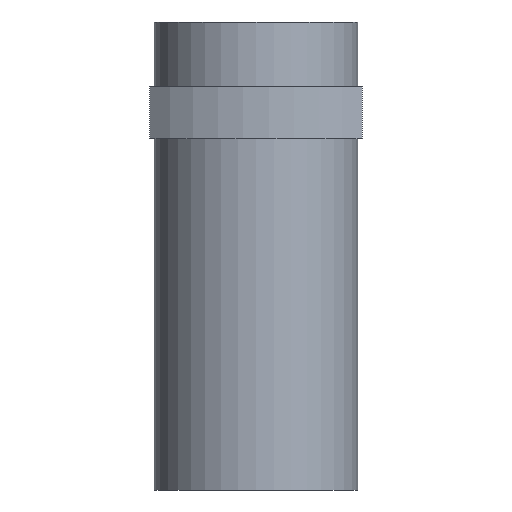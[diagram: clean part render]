
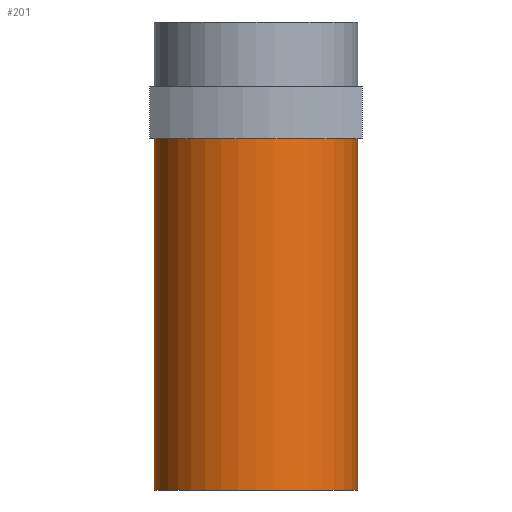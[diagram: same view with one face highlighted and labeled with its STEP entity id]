
A CAD part, front view. The second image highlights one B-rep face of the part: STEP entity #201.
In plain terms, the highlighted cylindrical face has radius 23.5 mm (diameter 47 mm), a full revolution.
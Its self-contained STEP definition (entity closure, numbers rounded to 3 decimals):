
#21 = EDGE_CURVE('',#22,#24,#26,.T.);
#22 = VERTEX_POINT('',#23);
#23 = CARTESIAN_POINT('',(-23.5,0.,-108.));
#24 = VERTEX_POINT('',#25);
#25 = CARTESIAN_POINT('',(23.5,0.,-108.));
#26 = SURFACE_CURVE('',#27,(#32,#44),.PCURVE_S1.);
#27 = CIRCLE('',#28,23.5);
#28 = AXIS2_PLACEMENT_3D('',#29,#30,#31);
#29 = CARTESIAN_POINT('',(0.,0.,-108.));
#30 = DIRECTION('',(0.,0.,-1.));
#31 = DIRECTION('',(-1.,0.,0.));
#32 = PCURVE('',#33,#38);
#33 = PLANE('',#34);
#34 = AXIS2_PLACEMENT_3D('',#35,#36,#37);
#35 = CARTESIAN_POINT('',(0.,0.,-108.));
#36 = DIRECTION('',(0.,0.,-1.));
#37 = DIRECTION('',(-1.,0.,0.));
#38 = DEFINITIONAL_REPRESENTATION('',(#39),#43);
#39 = CIRCLE('',#40,23.5);
#40 = AXIS2_PLACEMENT_2D('',#41,#42);
#41 = CARTESIAN_POINT('',(0.,0.));
#42 = DIRECTION('',(1.,0.));
#43 = ( GEOMETRIC_REPRESENTATION_CONTEXT(2) 
PARAMETRIC_REPRESENTATION_CONTEXT() REPRESENTATION_CONTEXT('2D SPACE',''
  ) );
#44 = PCURVE('',#45,#50);
#45 = CYLINDRICAL_SURFACE('',#46,23.5);
#46 = AXIS2_PLACEMENT_3D('',#47,#48,#49);
#47 = CARTESIAN_POINT('',(0.,0.,-30.));
#48 = DIRECTION('',(0.,0.,-1.));
#49 = DIRECTION('',(-1.,0.,0.));
#50 = DEFINITIONAL_REPRESENTATION('',(#51),#55);
#51 = LINE('',#52,#53);
#52 = CARTESIAN_POINT('',(0.,78.));
#53 = VECTOR('',#54,1.);
#54 = DIRECTION('',(1.,0.));
#55 = ( GEOMETRIC_REPRESENTATION_CONTEXT(2) 
PARAMETRIC_REPRESENTATION_CONTEXT() REPRESENTATION_CONTEXT('2D SPACE',''
  ) );
#57 = EDGE_CURVE('',#24,#22,#58,.T.);
#58 = SURFACE_CURVE('',#59,(#64,#71),.PCURVE_S1.);
#59 = CIRCLE('',#60,23.5);
#60 = AXIS2_PLACEMENT_3D('',#61,#62,#63);
#61 = CARTESIAN_POINT('',(0.,0.,-108.));
#62 = DIRECTION('',(0.,0.,-1.));
#63 = DIRECTION('',(-1.,0.,0.));
#64 = PCURVE('',#33,#65);
#65 = DEFINITIONAL_REPRESENTATION('',(#66),#70);
#66 = CIRCLE('',#67,23.5);
#67 = AXIS2_PLACEMENT_2D('',#68,#69);
#68 = CARTESIAN_POINT('',(0.,0.));
#69 = DIRECTION('',(1.,0.));
#70 = ( GEOMETRIC_REPRESENTATION_CONTEXT(2) 
PARAMETRIC_REPRESENTATION_CONTEXT() REPRESENTATION_CONTEXT('2D SPACE',''
  ) );
#71 = PCURVE('',#45,#72);
#72 = DEFINITIONAL_REPRESENTATION('',(#73),#77);
#73 = LINE('',#74,#75);
#74 = CARTESIAN_POINT('',(-6.283,78.));
#75 = VECTOR('',#76,1.);
#76 = DIRECTION('',(1.,0.));
#77 = ( GEOMETRIC_REPRESENTATION_CONTEXT(2) 
PARAMETRIC_REPRESENTATION_CONTEXT() REPRESENTATION_CONTEXT('2D SPACE',''
  ) );
#201 = ADVANCED_FACE('',(#202),#45,.T.);
#202 = FACE_BOUND('',#203,.T.);
#203 = EDGE_LOOP('',(#204,#205,#206,#229,#256));
#204 = ORIENTED_EDGE('',*,*,#21,.F.);
#205 = ORIENTED_EDGE('',*,*,#57,.F.);
#206 = ORIENTED_EDGE('',*,*,#207,.T.);
#207 = EDGE_CURVE('',#24,#208,#210,.T.);
#208 = VERTEX_POINT('',#209);
#209 = CARTESIAN_POINT('',(23.5,0.,-27.));
#210 = SEAM_CURVE('',#211,(#215,#222),.PCURVE_S1.);
#211 = LINE('',#212,#213);
#212 = CARTESIAN_POINT('',(23.5,0.,-30.));
#213 = VECTOR('',#214,1.);
#214 = DIRECTION('',(0.,0.,1.));
#215 = PCURVE('',#45,#216);
#216 = DEFINITIONAL_REPRESENTATION('',(#217),#221);
#217 = LINE('',#218,#219);
#218 = CARTESIAN_POINT('',(-3.142,0.));
#219 = VECTOR('',#220,1.);
#220 = DIRECTION('',(0.,-1.));
#221 = ( GEOMETRIC_REPRESENTATION_CONTEXT(2) 
PARAMETRIC_REPRESENTATION_CONTEXT() REPRESENTATION_CONTEXT('2D SPACE',''
  ) );
#222 = PCURVE('',#45,#223);
#223 = DEFINITIONAL_REPRESENTATION('',(#224),#228);
#224 = LINE('',#225,#226);
#225 = CARTESIAN_POINT('',(3.142,0.));
#226 = VECTOR('',#227,1.);
#227 = DIRECTION('',(0.,-1.));
#228 = ( GEOMETRIC_REPRESENTATION_CONTEXT(2) 
PARAMETRIC_REPRESENTATION_CONTEXT() REPRESENTATION_CONTEXT('2D SPACE',''
  ) );
#229 = ORIENTED_EDGE('',*,*,#230,.T.);
#230 = EDGE_CURVE('',#208,#208,#231,.T.);
#231 = SURFACE_CURVE('',#232,(#237,#244),.PCURVE_S1.);
#232 = CIRCLE('',#233,23.5);
#233 = AXIS2_PLACEMENT_3D('',#234,#235,#236);
#234 = CARTESIAN_POINT('',(0.,0.,-27.));
#235 = DIRECTION('',(0.,0.,-1.));
#236 = DIRECTION('',(-1.,0.,0.));
#237 = PCURVE('',#45,#238);
#238 = DEFINITIONAL_REPRESENTATION('',(#239),#243);
#239 = LINE('',#240,#241);
#240 = CARTESIAN_POINT('',(-6.283,-3.));
#241 = VECTOR('',#242,1.);
#242 = DIRECTION('',(1.,0.));
#243 = ( GEOMETRIC_REPRESENTATION_CONTEXT(2) 
PARAMETRIC_REPRESENTATION_CONTEXT() REPRESENTATION_CONTEXT('2D SPACE',''
  ) );
#244 = PCURVE('',#245,#250);
#245 = PLANE('',#246);
#246 = AXIS2_PLACEMENT_3D('',#247,#248,#249);
#247 = CARTESIAN_POINT('',(0.,0.,-27.));
#248 = DIRECTION('',(0.,0.,-1.));
#249 = DIRECTION('',(-1.,0.,0.));
#250 = DEFINITIONAL_REPRESENTATION('',(#251),#255);
#251 = CIRCLE('',#252,23.5);
#252 = AXIS2_PLACEMENT_2D('',#253,#254);
#253 = CARTESIAN_POINT('',(0.,0.));
#254 = DIRECTION('',(1.,0.));
#255 = ( GEOMETRIC_REPRESENTATION_CONTEXT(2) 
PARAMETRIC_REPRESENTATION_CONTEXT() REPRESENTATION_CONTEXT('2D SPACE',''
  ) );
#256 = ORIENTED_EDGE('',*,*,#207,.F.);
